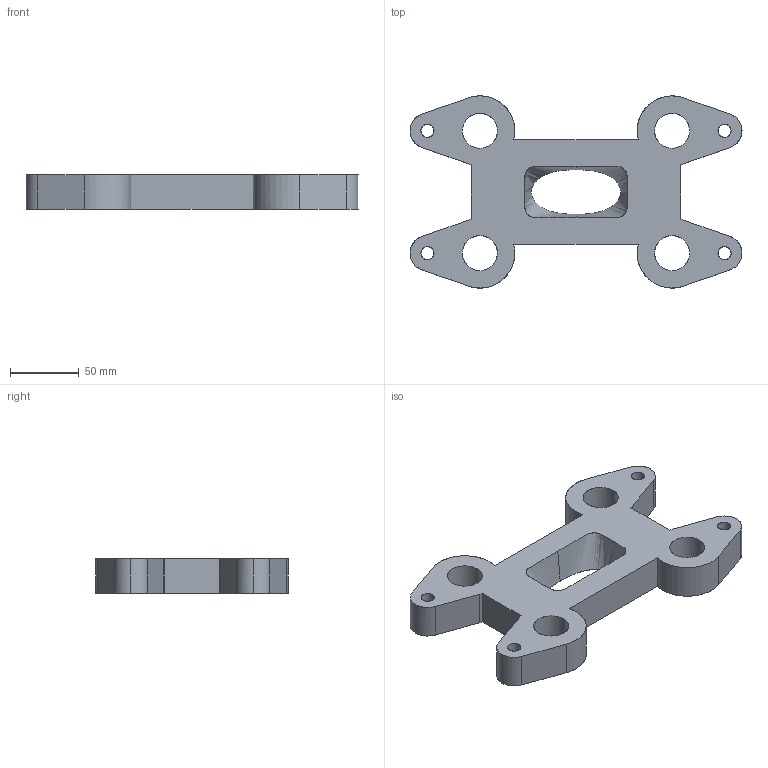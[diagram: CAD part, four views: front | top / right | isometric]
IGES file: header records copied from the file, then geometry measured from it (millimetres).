
Start section: SolidWorks IGES file using analytic representation for surfaces
Global section: file name: C:\Users\md90767\OneDrive - harriscomputer\Desktop\Current Launchpad Projects\V13 - GETTING STARTED\Part Files\Wire EDM Tutorial Blank.IGS; native system: SolidWorks 2025; preprocessor: SolidWorks 2025; author: md90767; date: 250923.124917; units: inch
Bounding box: 241.3 x 139.7 x 25.4 mm (x, y, z)
Surface area: 71670.2 mm2 (no closed solid volume)
Topology: 0 solids, 0 shells, 48 faces, 1256 edges, 1256 vertices
Faces by surface type: bspline 48
